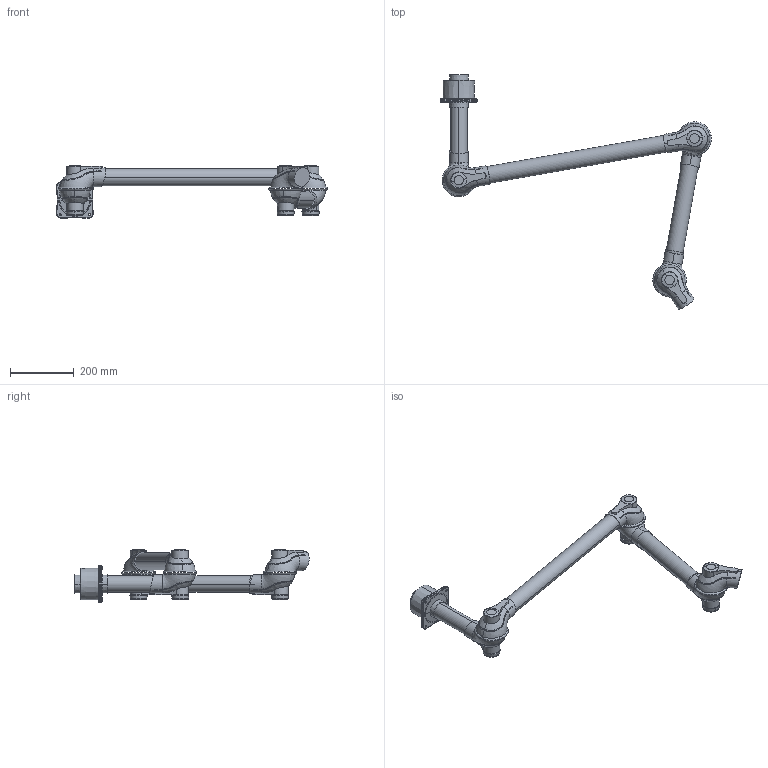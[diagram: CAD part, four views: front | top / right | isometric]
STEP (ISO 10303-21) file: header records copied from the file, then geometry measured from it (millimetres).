
FILE_DESCRIPTION((''),'2;1');
FILE_NAME('102180','2015-09-30T',('Tomas Bellgran'),(''),'PRO/ENGINEER BY PARAMETRIC TECHNOLOGY CORPORATION, 2013410','PRO/ENGINEER BY PARAMETRIC TECHNOLOGY CORPORATION, 2013410','');
FILE_SCHEMA(('AUTOMOTIVE_DESIGN { 1 0 10303 214 1 1 1 1 }'));
Length unit declared in the file: millimetre
Products named in the file (12): 100350; 102161; 102200; 102176; 102160; 102175; 102162; 102168; 105-5481; 101156; 102177; 102180
Assembly tree (18 placements, depth 4):
  102180
    102176
      100350
      102161
      102200
    102175
      102200  x2
      102160
    102168
      102162
      102200
    102177
      102200  x2
      101156
        105-5481
    101156  x2
      105-5481
Bounding box: 848.01 x 734.34 x 164.28 mm (x, y, z)
Volume: 6328829.2 mm3; surface area: 540051.3 mm2
Topology: 13 solids, 13 shells, 644 faces, 1546 edges, 945 vertices
Faces by surface type: bspline 240, plane 178, cone 111, cylinder 66, torus 28, sphere 21
Entity records: 27630 total; most frequent: CARTESIAN_POINT 13711, ORIENTED_EDGE 1500, DIRECTION 1036, PRESENTATION_STYLE_ASSIGNMENT 1033, STYLED_ITEM 1033, CURVE_STYLE 750, EDGE_CURVE 750, PROPERTY_DEFINITION 542
